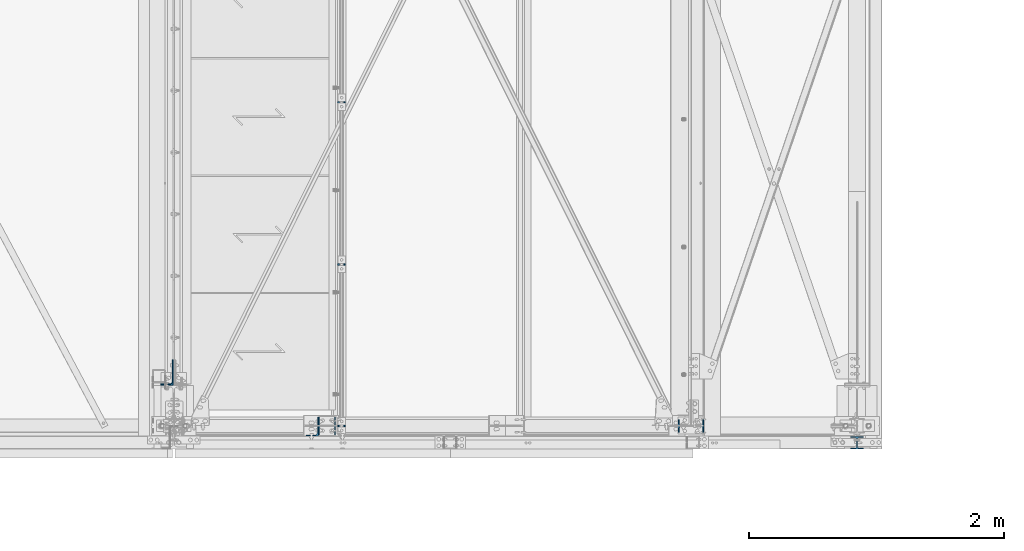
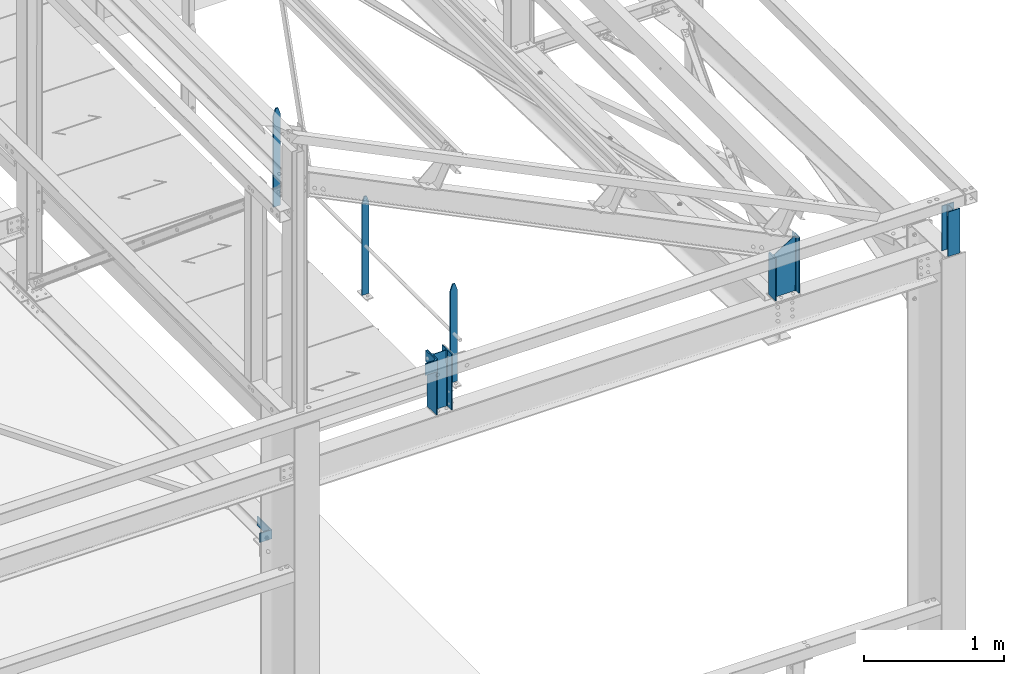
# One storey, part 36 of 362: 8 columns, 6 elements without a shape of their own.
"""IFC2X3 building model written with IfcOpenShell, lengths in millimetres."""

from ifc_helpers import new_model, si_unit, frame, origin_with_axes, origin_2d_with_axis, place, context, subcontext, project, spatial, rectangle, i_section, l_section, extrude, clip, halfspace, material, type_object, element, aggregate, save


model = new_model("IFC2X3")

# Units and contexts
model_context = context("Model", 3, precision=1e-05, world=origin_with_axes())
body_context = subcontext(model_context, "Body", "Model", "MODEL_VIEW")
ifc_project = project(units=[si_unit("LENGTHUNIT", "METRE", prefix="MILLI"), si_unit("AREAUNIT", "SQUARE_METRE"), si_unit("VOLUMEUNIT", "CUBIC_METRE"), si_unit("MASSUNIT", "GRAM", prefix="KILO"), si_unit("TIMEUNIT", "SECOND"), si_unit("PLANEANGLEUNIT", "RADIAN"), si_unit("SOLIDANGLEUNIT", "STERADIAN"), si_unit("THERMODYNAMICTEMPERATUREUNIT", "DEGREE_CELSIUS"), si_unit("LUMINOUSINTENSITYUNIT", "LUMEN")], contexts=[model_context])

# Site, building, storey
site_placement = place(None, origin_with_axes())
site = spatial("IfcSite", under=ifc_project, at=site_placement, Name="Undefined", CompositionType="ELEMENT")
building_placement = place(site_placement, origin_with_axes())
building = spatial("IfcBuilding", under=site, at=building_placement, Name="Undefined", CompositionType="ELEMENT")
storey_placement = place(building_placement, origin_with_axes())
storey = spatial("IfcBuildingStorey", under=building, at=storey_placement, Name="Undefined", CompositionType="ELEMENT", Elevation=0.0)

# Assembly, columns
assembly_1_placement = place(storey_placement, origin_with_axes())
assembly_1 = element("IfcElementAssembly", 1, at=assembly_1_placement, inside=storey, Name="MAIN COURANTE", AssemblyPlace="NOTDEFINED", PredefinedType="NOTDEFINED")
ifc_material_1 = material(Name="Undefined/S235-E24")
column_type_1 = type_object("IfcColumnType", Name="PL10*60", PredefinedType="NOTDEFINED")
column_1_placement = place(assembly_1_placement, frame((35593.991712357, -8.57210125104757e-07, 8250.00000822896), z_axis=(0.0, 0.0, 1.0), x_axis=(1.0, 0.0, 0.0)))
column_1 = element("IfcColumn", 2, at=column_1_placement, type_object=column_type_1, material=ifc_material_1, Name="MONTANT", ObjectType="PL10*60", context=body_context, shape_type="Clipping", body=[
    clip(clip(extrude(rectangle(XDim=10.0, YDim=60.0, at=origin_2d_with_axis()), frame((0.0, 0.0, 857.599997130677), z_axis=(0.0, 0.0, -1.0), x_axis=(0.0, 1.0, 0.0)), (0.0, 0.0, 1.0), 857.6), halfspace(frame((30.0000001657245, -5.000000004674, 797.599997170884), z_axis=(0.948683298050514, 0.0, 0.316227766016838), x_axis=(-0.316227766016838, 0.0, 0.948683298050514)), False)), halfspace(frame((-29.9999998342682, 4.99999999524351, 797.599997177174), z_axis=(-0.948683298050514, 0.0, 0.316227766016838), x_axis=(0.316227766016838, 0.0, 0.948683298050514)), False)),
])
column_2_placement = place(assembly_1_placement, frame((35593.991712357, 1265.00343196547, 8250.00000822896), z_axis=(0.0, 0.0, 1.0), x_axis=(1.0, 0.0, 0.0)))
column_2 = element("IfcColumn", 3, at=column_2_placement, type_object=column_type_1, material=ifc_material_1, Name="MONTANT", ObjectType="PL10*60", context=body_context, shape_type="Clipping", body=[
    clip(clip(extrude(rectangle(XDim=10.0, YDim=60.0, at=origin_2d_with_axis()), frame((0.0, 0.0, 857.599997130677), z_axis=(0.0, 0.0, -1.0), x_axis=(0.0, 1.0, 0.0)), (0.0, 0.0, 1.0), 857.6), halfspace(frame((30.0000001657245, -5.000000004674, 797.599997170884), z_axis=(0.948683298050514, 0.0, 0.316227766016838), x_axis=(-0.316227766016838, 0.0, 0.948683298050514)), False)), halfspace(frame((-29.9999998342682, 4.99999999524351, 797.599997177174), z_axis=(-0.948683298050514, 0.0, 0.316227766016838), x_axis=(0.316227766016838, 0.0, 0.948683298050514)), False)),
])
column_3_placement = place(assembly_1_placement, frame((35593.9917134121, 2535.00343196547, 8250.00000735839), z_axis=(0.0, 0.0, 1.0), x_axis=(1.0, 0.0, 0.0)))
column_3 = element("IfcColumn", 4, at=column_3_placement, type_object=column_type_1, material=ifc_material_1, Name="MONTANT", ObjectType="PL10*60", context=body_context, shape_type="Clipping", body=[
    clip(clip(extrude(rectangle(XDim=10.0, YDim=60.0, at=origin_2d_with_axis()), frame((0.0, 0.0, 857.599997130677), z_axis=(0.0, 0.0, -1.0), x_axis=(0.0, 1.0, 0.0)), (0.0, 0.0, 1.0), 857.6), halfspace(frame((30.0000001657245, -5.000000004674, 797.599997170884), z_axis=(0.948683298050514, 0.0, 0.316227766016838), x_axis=(-0.316227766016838, 0.0, 0.948683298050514)), False)), halfspace(frame((-29.9999998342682, 4.99999999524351, 797.599997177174), z_axis=(-0.948683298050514, 0.0, 0.316227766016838), x_axis=(0.316227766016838, 0.0, 0.948683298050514)), False)),
])
aggregate(assembly_1, [column_1, column_2, column_3])

# Assembly, column
assembly_2_placement = place(storey_placement, origin_with_axes())
assembly_2 = element("IfcElementAssembly", 5, at=assembly_2_placement, inside=storey, AssemblyPlace="NOTDEFINED", PredefinedType="NOTDEFINED")
column_type_2 = type_object("IfcColumnType", Name="L200*100*10", PredefinedType="NOTDEFINED")
column_4_placement = place(assembly_2_placement, frame((35363.4917140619, 20.0, 8450.0), z_axis=(0.0, 0.0, 1.0), x_axis=(0.0, 1.0, 0.0)))
column_4 = element("IfcColumn", 6, at=column_4_placement, type_object=column_type_2, material=ifc_material_1, Name="ATTACHE", ObjectType="L200*100*10", context=body_context, shape_type="Clipping", body=[
    clip(extrude(l_section(Depth=200.0, Width=100.0, Thickness=10.0, FilletRadius=15.0, EdgeRadius=7.5, at=origin_2d_with_axis()), frame((0.0, 0.0, 100.0), z_axis=(0.0, 0.0, -1.0), x_axis=(0.0, 1.0, 0.0)), (0.0, 0.0, 1.0), 100.0), halfspace(frame((50.0001436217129, -50.0, 100.0), z_axis=(1.0, 0.0, 0.0), x_axis=(0.0, 1.0, 0.0)), False)),
])
aggregate(assembly_2, [column_4])

assembly_3_placement = place(storey_placement, origin_with_axes())
assembly_3 = element("IfcElementAssembly", 7, at=assembly_3_placement, inside=storey, AssemblyPlace="NOTDEFINED", PredefinedType="NOTDEFINED")
column_5_placement = place(assembly_3_placement, frame((34226.4999999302, 419.997266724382, 7143.49999223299), z_axis=(0.0, 0.0, 1.0), x_axis=(0.0, 1.0, 0.0)))
column_5 = element("IfcColumn", 8, at=column_5_placement, type_object=column_type_2, material=ifc_material_1, Name="ATTACHE", ObjectType="L200*100*10", context=body_context, shape_type="SweptSolid", body=[
    extrude(l_section(Depth=200.0, Width=100.0, Thickness=10.0, FilletRadius=15.0, EdgeRadius=7.5, at=origin_2d_with_axis()), frame((0.0, 0.0, 80.0), z_axis=(0.0, 0.0, -1.0), x_axis=(0.0, 1.0, 0.0)), (0.0, 0.0, 1.0), 80.0),
])
aggregate(assembly_3, [column_5])

assembly_4_placement = place(storey_placement, origin_with_axes())
assembly_4 = element("IfcElementAssembly", 9, at=assembly_4_placement, inside=storey, Name="MONTANT", AssemblyPlace="NOTDEFINED", PredefinedType="NOTDEFINED")
ifc_material_2 = material(Name="Undefined/S275-E28")
column_type_3 = type_object("IfcColumnType", Name="HEA140", PredefinedType="NOTDEFINED")
column_6_placement = place(assembly_4_placement, frame((35479.9917140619, 0.0, 8060.00187330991), z_axis=(0.0, 0.0, 1.0), x_axis=(-1.0, 0.0, 0.0)))
column_6 = element("IfcColumn", 10, at=column_6_placement, type_object=column_type_3, material=ifc_material_2, Name="MONTANT", ObjectType="HEA140", context=body_context, shape_type="Clipping", body=[
    clip(extrude(i_section(OverallWidth=140.0, OverallDepth=133.0, WebThickness=5.5, FlangeThickness=8.5, FilletRadius=12.0, at=origin_2d_with_axis()), frame((0.0, 2.59402848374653e-20, 489.998126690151), z_axis=(0.0, 0.0, -1.0), x_axis=(0.0, 1.0, 0.0)), (0.0, 0.0, 1.0), 492.22), halfspace(frame((66.5, -59.2708727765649, -1.857708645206), z_axis=(0.0, 0.031410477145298, -0.999506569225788), x_axis=(1.0, 0.0, 0.0)), False)),
])
aggregate(assembly_4, [column_6])

assembly_5_placement = place(storey_placement, origin_with_axes())
assembly_5 = element("IfcElementAssembly", 11, at=assembly_5_placement, inside=storey, Name="POTEAU", AssemblyPlace="NOTDEFINED", PredefinedType="NOTDEFINED")
column_type_4 = type_object("IfcColumnType", Name="HEA100", PredefinedType="NOTDEFINED")
column_7_placement = place(assembly_5_placement, frame((39630.0, -132.0, 8049.99544952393), z_axis=(0.0, 0.0, 1.0), x_axis=(0.0, 1.0, 0.0)))
column_7 = element("IfcColumn", 12, at=column_7_placement, type_object=column_type_4, material=ifc_material_2, Name="BAIONNETTE", ObjectType="HEA100", context=body_context, shape_type="Clipping", body=[
    clip(extrude(i_section(OverallWidth=100.0, OverallDepth=96.0, WebThickness=5.0, FlangeThickness=8.0, FilletRadius=12.0, at=origin_2d_with_axis()), frame((0.0, 0.0, 395.004550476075), z_axis=(0.0, 0.0, -1.0), x_axis=(0.0, 1.0, 0.0)), (0.0, 0.0, 1.0), 395.0), halfspace(frame((-48.0, -70.0, 5.66127835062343), z_axis=(-0.0314107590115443, 0.0, -0.999506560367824), x_axis=(0.999506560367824, 0.0, -0.0314107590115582)), False)),
])
aggregate(assembly_5, [column_7])

assembly_6_placement = place(storey_placement, origin_with_axes())
assembly_6 = element("IfcElementAssembly", 13, at=assembly_6_placement, inside=storey, Name="TRAVERSE SHED", AssemblyPlace="NOTDEFINED", PredefinedType="NOTDEFINED")
column_type_5 = type_object("IfcColumnType", Name="IPE200", PredefinedType="NOTDEFINED")
column_8_placement = place(assembly_6_placement, frame((38330.0, 0.0, 8050.00187326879), z_axis=(0.0, 0.0, 1.0), x_axis=(-1.0, 0.0, 0.0)))
column_8 = element("IfcColumn", 14, at=column_8_placement, type_object=column_type_5, material=ifc_material_2, Name="TRAVERSE SHED", ObjectType="IPE200", context=body_context, shape_type="Clipping", body=[
    clip(clip(extrude(i_section(OverallWidth=100.0, OverallDepth=200.0, WebThickness=5.599999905, FlangeThickness=8.5, FilletRadius=12.0, at=origin_2d_with_axis()), frame((0.0, 0.0, 502.207817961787), z_axis=(0.0, 0.0, -1.0), x_axis=(0.0, 1.0, 0.0)), (0.0, 0.0, 1.0), 556.68), halfspace(frame((100.0, 0.0, 375.46503082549), z_axis=(-0.528573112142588, 0.0, -0.848887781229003), x_axis=(0.0, 1.0, 0.0)), True)), halfspace(frame((0.0, 56.4122577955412, 11.7777641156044), z_axis=(0.0, 0.031410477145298, -0.999506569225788), x_axis=(-1.0, 0.0, 0.0)), False)),
])
aggregate(assembly_6, [column_8])

save(model, "model.ifc")
